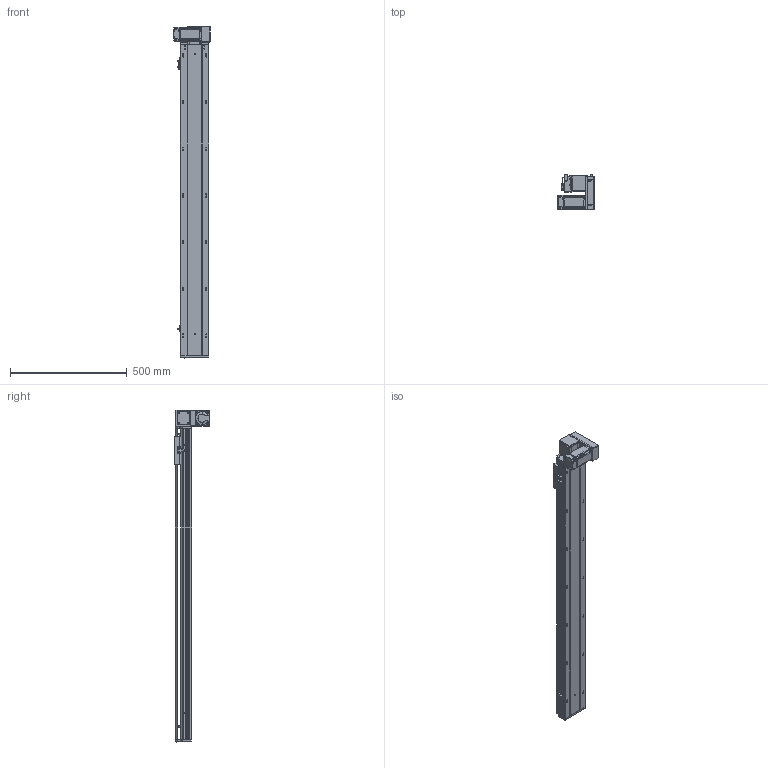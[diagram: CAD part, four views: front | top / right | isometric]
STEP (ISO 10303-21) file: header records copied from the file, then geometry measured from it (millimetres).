
FILE_DESCRIPTION (( 'STEP AP203' ), '1' );
FILE_NAME ('RY120-T-300-DR.SLDASM_1100.step', '2021-03-01T03:35:54', ( '盈信电脑' ), ( '东莞市道滘镇水果街19号' ), 'SwSTEP 2.0', 'SolidWorks 2012', '' );
FILE_SCHEMA (( 'CONFIG_CONTROL_DESIGN' ));
Length unit declared in the file: millimetre
Products named in the file (17): RY120-T-300-DR.SLDASM_1100; RY120-T主同步轮轴承压盖; RY120-T蹟翐M4; RY120-T萇儂欶; RY120-T翋肮祭謫裔啣; 15; 滅袉蝶18-10; RY120-T萇儂假蚾啣; RY120-T肮祭湍揤踡輸1; RY120-T翋肮祭盓傅釱; RY120-T肮祭湍揤踡輸2; RY120綴裔啣; 覜茼ん672; RY120肮祭湍臏賑輸; RY120外置感应片(140共用）; RY120-T-300-DR倰第奻裔啣_1100; RY120-T-300-DR倰第菁釱_1100
Assembly tree (22 placements, depth 2):
  RY120-T-300-DR.SLDASM_1100
    RY120-T-300-DR倰第菁釱_1100
    RY120-T-300-DR倰第奻裔啣_1100
    RY120肮祭湍臏賑輸
    RY120綴裔啣
    覜茼ん672  x3
    RY120外置感应片(140共用）
    RY120-T肮祭湍揤踡輸1
    RY120-T肮祭湍揤踡輸2
    RY120-T翋肮祭盓傅釱
    滅袉蝶18-10  x2
    RY120-T翋肮祭謫裔啣
    15
    RY120-T萇儂假蚾啣
    RY120-T蹟翐M4  x4
    RY120-T萇儂欶
    RY120-T主同步轮轴承压盖
Bounding box: 155.5 x 150 x 1421 mm (x, y, z)
Volume: 3836994.8 mm3; surface area: 1437137.7 mm2
Topology: 23 solids, 23 shells, 2828 faces, 7700 edges, 4930 vertices
Faces by surface type: plane 1412, cylinder 1070, cone 257, bspline 89
Entity records: 89713 total; most frequent: CARTESIAN_POINT 22696, ORIENTED_EDGE 13808, DIRECTION 13102, EDGE_CURVE 6904, VERTEX_POINT 4517, AXIS2_PLACEMENT_3D 4391, LINE 4320, VECTOR 4320
